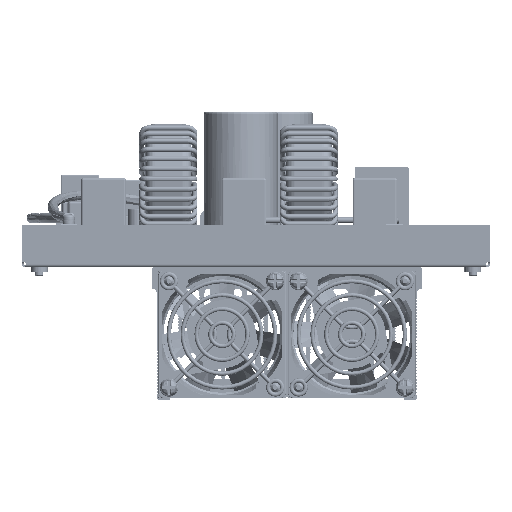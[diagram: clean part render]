
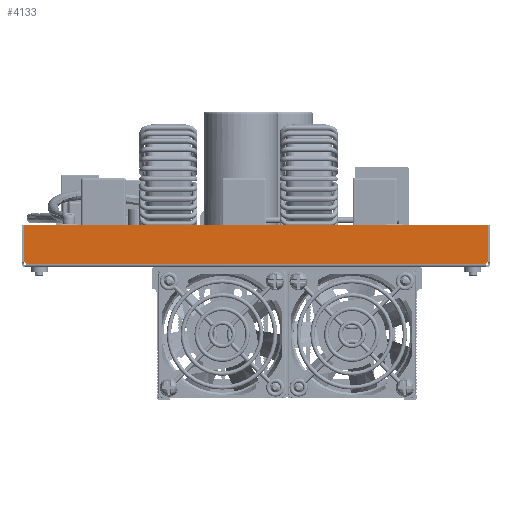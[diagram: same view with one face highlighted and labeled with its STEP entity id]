
A CAD part, front view. The second image highlights one B-rep face of the part: STEP entity #4133.
In plain terms, the highlighted planar face has unit normal (0, -1, 0).
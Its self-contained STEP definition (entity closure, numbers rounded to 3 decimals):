
#858=CARTESIAN_POINT('',(108.078,-147.5,1.5));
#876=CARTESIAN_POINT('',(-108.078,-147.5,1.5));
#878=DIRECTION('',(1.,0.,0.));
#879=VECTOR('',#878,216.155);
#880=CARTESIAN_POINT('',(-108.078,-147.5,1.5));
#881=LINE('',#880,#879);
#894=CARTESIAN_POINT('',(-109.561,-147.5,1.275));
#895=DIRECTION('',(0.,-1.,0.));
#896=DIRECTION('',(0.989,0.,0.15));
#897=AXIS2_PLACEMENT_3D('',#894,#895,#896);
#899=DIRECTION('',(-1.,0.,0.));
#900=VECTOR('',#899,0.5);
#901=CARTESIAN_POINT('',(-108.5,-147.5,2.336));
#902=LINE('',#901,#900);
#903=DIRECTION('',(0.,0.,1.));
#904=VECTOR('',#903,17.664);
#905=CARTESIAN_POINT('',(-109.,-147.5,2.336));
#906=LINE('',#905,#904);
#907=DIRECTION('',(0.,0.,-1.));
#908=VECTOR('',#907,17.664);
#909=CARTESIAN_POINT('',(109.,-147.5,20.));
#910=LINE('',#909,#908);
#911=DIRECTION('',(-1.,0.,0.));
#912=VECTOR('',#911,0.5);
#913=CARTESIAN_POINT('',(109.,-147.5,2.336));
#914=LINE('',#913,#912);
#915=CARTESIAN_POINT('',(109.561,-147.5,1.275));
#916=DIRECTION('',(0.,-1.,0.));
#917=DIRECTION('',(-0.707,0.,0.707));
#918=AXIS2_PLACEMENT_3D('',#915,#916,#917);
#954=DIRECTION('',(-1.,0.,0.));
#955=VECTOR('',#954,218.);
#956=CARTESIAN_POINT('',(109.,-147.5,20.));
#957=LINE('',#956,#955);
#2262=VERTEX_POINT('',#858);
#2263=VERTEX_POINT('',#876);
#2494=CARTESIAN_POINT('',(109.,-147.5,20.));
#2495=CARTESIAN_POINT('',(109.,-147.5,2.336));
#2496=VERTEX_POINT('',#2494);
#2497=VERTEX_POINT('',#2495);
#2503=CARTESIAN_POINT('',(108.5,-147.5,2.336));
#2505=VERTEX_POINT('',#2503);
#2506=CARTESIAN_POINT('',(-109.,-147.5,2.336));
#2507=CARTESIAN_POINT('',(-109.,-147.5,20.));
#2508=VERTEX_POINT('',#2506);
#2509=VERTEX_POINT('',#2507);
#2515=CARTESIAN_POINT('',(-108.5,-147.5,2.336));
#2517=VERTEX_POINT('',#2515);
#4113=CARTESIAN_POINT('',(108.5,-147.5,0.));
#4114=DIRECTION('',(0.,-1.,0.));
#4115=DIRECTION('',(1.,0.,0.));
#4116=AXIS2_PLACEMENT_3D('',#4113,#4114,#4115);
#4117=PLANE('',#4116);
#4119=ORIENTED_EDGE('',*,*,#4118,.T.);
#4121=ORIENTED_EDGE('',*,*,#4120,.T.);
#4123=ORIENTED_EDGE('',*,*,#4122,.T.);
#4125=ORIENTED_EDGE('',*,*,#4124,.F.);
#4127=ORIENTED_EDGE('',*,*,#4126,.T.);
#4128=ORIENTED_EDGE('',*,*,#4104,.T.);
#4129=ORIENTED_EDGE('',*,*,#4093,.T.);
#4130=ORIENTED_EDGE('',*,*,#4032,.F.);
#4131=EDGE_LOOP('',(#4119,#4121,#4123,#4125,#4127,#4128,#4129,#4130));
#4132=FACE_OUTER_BOUND('',#4131,.F.);
#4133=ADVANCED_FACE('',(#4132),#4117,.T.);
#898=CIRCLE('',#897,1.5);
#919=CIRCLE('',#918,1.5);
#4032=EDGE_CURVE('',#2263,#2262,#881,.T.);
#4093=EDGE_CURVE('',#2505,#2262,#919,.T.);
#4104=EDGE_CURVE('',#2497,#2505,#914,.T.);
#4118=EDGE_CURVE('',#2263,#2517,#898,.T.);
#4120=EDGE_CURVE('',#2517,#2508,#902,.T.);
#4122=EDGE_CURVE('',#2508,#2509,#906,.T.);
#4124=EDGE_CURVE('',#2496,#2509,#957,.T.);
#4126=EDGE_CURVE('',#2496,#2497,#910,.T.);
